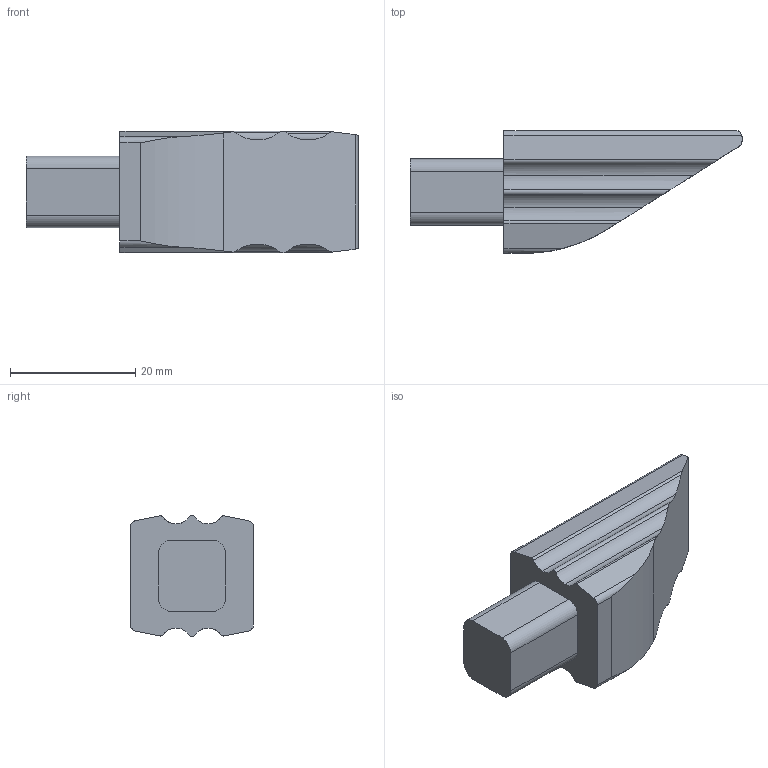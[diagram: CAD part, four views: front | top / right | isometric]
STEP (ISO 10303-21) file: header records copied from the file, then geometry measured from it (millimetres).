
FILE_DESCRIPTION((''),'2;1');
FILE_NAME('FGEC-30D','2016-08-24T',('jenni.wallner'),(''),'PRO/ENGINEER BY PARAMETRIC TECHNOLOGY CORPORATION, 2012420','PRO/ENGINEER BY PARAMETRIC TECHNOLOGY CORPORATION, 2012420','');
FILE_SCHEMA(('CONFIG_CONTROL_DESIGN'));
Length unit declared in the file: inch
Products named in the file (1): FGEC-30D
Bounding box: 53 x 19.6 x 19.37 mm (x, y, z)
Volume: 10715.5 mm3; surface area: 3484.7 mm2
Topology: 1 solids, 1 shells, 40 faces, 121 edges, 84 vertices
Faces by surface type: cylinder 26, plane 14
Entity records: 1472 total; most frequent: CARTESIAN_POINT 360, ORIENTED_EDGE 242, DIRECTION 203, EDGE_CURVE 121, VERTEX_POINT 84, AXIS2_PLACEMENT_3D 72, VECTOR 59, LINE 59
